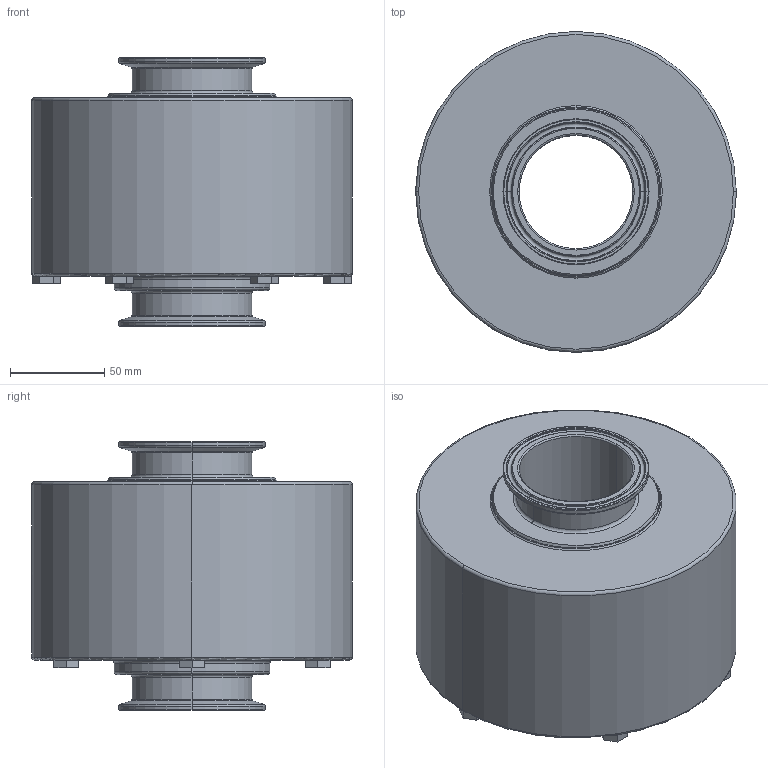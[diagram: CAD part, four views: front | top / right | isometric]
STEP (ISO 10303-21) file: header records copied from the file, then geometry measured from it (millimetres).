
FILE_DESCRIPTION (( 'STEP AP214' ), '1' );
FILE_NAME ('SCS(M)-610010.STEP', '2013-01-28T15:59:51', ( '' ), ( '' ), 'SwSTEP 2.0', 'SolidWorks 2011', '' );
FILE_SCHEMA (( 'AUTOMOTIVE_DESIGN' ));
Length unit declared in the file: inch
Products named in the file (1): SCS(M)-610010
Bounding box: 169.88 x 169.88 x 142.49 mm (x, y, z)
Volume: 1918937.4 mm3; surface area: 136967.8 mm2
Topology: 1 solids, 7 shells, 167 faces, 374 edges, 214 vertices
Faces by surface type: plane 63, torus 40, cone 32, cylinder 32
Entity records: 5344 total; most frequent: CARTESIAN_POINT 868, DIRECTION 860, ORIENTED_EDGE 716, EDGE_CURVE 358, AXIS2_PLACEMENT_3D 338, VERTEX_POINT 214, LINE 184, VECTOR 184
